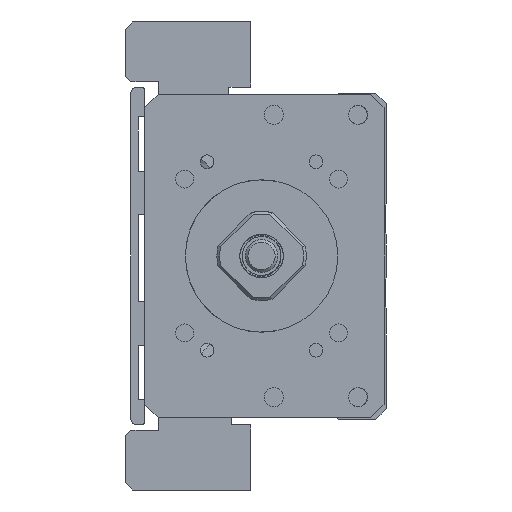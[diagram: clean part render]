
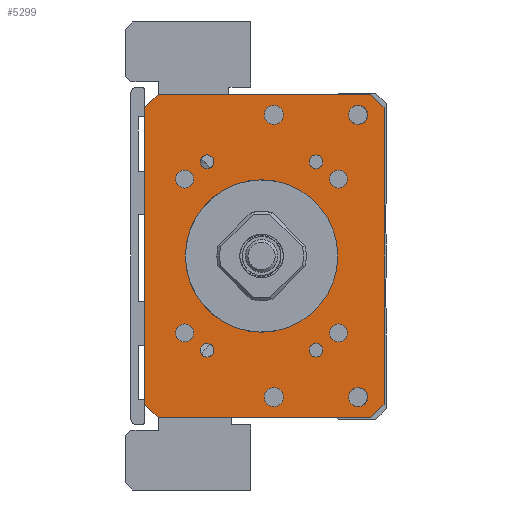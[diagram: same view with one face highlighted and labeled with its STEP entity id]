
A CAD part, left-side view. The second image highlights one B-rep face of the part: STEP entity #5299.
In plain terms, the highlighted planar face has unit normal (-1, 0, 0).
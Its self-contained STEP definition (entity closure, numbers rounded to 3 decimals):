
#5299=ADVANCED_FACE('',(#8167,#8168,#8169,#8170,#8171,#8172,#8173,#8174,
#8175,#8176,#8177,#8178,#8179,#8180),#5886,.F.);
#5886=PLANE('',#16061);
#6630=LINE('',#21746,#7591);
#6632=LINE('',#21770,#7593);
#6633=LINE('',#21772,#7594);
#6634=LINE('',#21774,#7595);
#6635=LINE('',#21776,#7596);
#6636=LINE('',#21778,#7597);
#6637=LINE('',#21780,#7598);
#6638=LINE('',#21782,#7599);
#7591=VECTOR('',#18279,1.);
#7593=VECTOR('',#18303,1.);
#7594=VECTOR('',#18304,1.);
#7595=VECTOR('',#18305,1.);
#7596=VECTOR('',#18306,1.);
#7597=VECTOR('',#18307,1.);
#7598=VECTOR('',#18308,1.);
#7599=VECTOR('',#18309,1.);
#8167=FACE_BOUND('',#8923,.T.);
#8168=FACE_BOUND('',#8924,.T.);
#8169=FACE_BOUND('',#8925,.T.);
#8170=FACE_BOUND('',#8926,.T.);
#8171=FACE_BOUND('',#8927,.T.);
#8172=FACE_BOUND('',#8928,.T.);
#8173=FACE_BOUND('',#8929,.T.);
#8174=FACE_BOUND('',#8930,.T.);
#8175=FACE_BOUND('',#8931,.T.);
#8176=FACE_BOUND('',#8932,.T.);
#8177=FACE_BOUND('',#8933,.T.);
#8178=FACE_BOUND('',#8934,.T.);
#8179=FACE_BOUND('',#8935,.T.);
#8180=FACE_BOUND('',#8936,.T.);
#8923=EDGE_LOOP('',(#11005));
#8924=EDGE_LOOP('',(#11006));
#8925=EDGE_LOOP('',(#11007));
#8926=EDGE_LOOP('',(#11008));
#8927=EDGE_LOOP('',(#11009));
#8928=EDGE_LOOP('',(#11010));
#8929=EDGE_LOOP('',(#11011));
#8930=EDGE_LOOP('',(#11012));
#8931=EDGE_LOOP('',(#11013));
#8932=EDGE_LOOP('',(#11014,#11015,#11016,#11017,#11018,#11019,#11020,#11021));
#8933=EDGE_LOOP('',(#11022));
#8934=EDGE_LOOP('',(#11023));
#8935=EDGE_LOOP('',(#11024));
#8936=EDGE_LOOP('',(#11025));
#11005=ORIENTED_EDGE('',*,*,#14385,.F.);
#11006=ORIENTED_EDGE('',*,*,#14386,.F.);
#11007=ORIENTED_EDGE('',*,*,#14387,.F.);
#11008=ORIENTED_EDGE('',*,*,#14388,.F.);
#11009=ORIENTED_EDGE('',*,*,#14389,.F.);
#11010=ORIENTED_EDGE('',*,*,#14390,.T.);
#11011=ORIENTED_EDGE('',*,*,#14391,.F.);
#11012=ORIENTED_EDGE('',*,*,#14392,.F.);
#11013=ORIENTED_EDGE('',*,*,#14393,.F.);
#11014=ORIENTED_EDGE('',*,*,#14382,.T.);
#11015=ORIENTED_EDGE('',*,*,#14394,.T.);
#11016=ORIENTED_EDGE('',*,*,#14395,.F.);
#11017=ORIENTED_EDGE('',*,*,#14396,.T.);
#11018=ORIENTED_EDGE('',*,*,#14397,.F.);
#11019=ORIENTED_EDGE('',*,*,#14398,.T.);
#11020=ORIENTED_EDGE('',*,*,#14399,.T.);
#11021=ORIENTED_EDGE('',*,*,#14400,.T.);
#11022=ORIENTED_EDGE('',*,*,#14401,.F.);
#11023=ORIENTED_EDGE('',*,*,#14402,.F.);
#11024=ORIENTED_EDGE('',*,*,#14403,.F.);
#11025=ORIENTED_EDGE('',*,*,#14362,.F.);
#13039=VERTEX_POINT('',#21669);
#13059=VERTEX_POINT('',#21745);
#13060=VERTEX_POINT('',#21747);
#13062=VERTEX_POINT('',#21753);
#13063=VERTEX_POINT('',#21755);
#13064=VERTEX_POINT('',#21757);
#13065=VERTEX_POINT('',#21759);
#13066=VERTEX_POINT('',#21761);
#13067=VERTEX_POINT('',#21763);
#13068=VERTEX_POINT('',#21765);
#13069=VERTEX_POINT('',#21767);
#13070=VERTEX_POINT('',#21769);
#13071=VERTEX_POINT('',#21771);
#13072=VERTEX_POINT('',#21773);
#13073=VERTEX_POINT('',#21775);
#13074=VERTEX_POINT('',#21777);
#13075=VERTEX_POINT('',#21779);
#13076=VERTEX_POINT('',#21781);
#13077=VERTEX_POINT('',#21784);
#13078=VERTEX_POINT('',#21786);
#13079=VERTEX_POINT('',#21788);
#14362=EDGE_CURVE('',#13039,#13039,#15269,.T.);
#14382=EDGE_CURVE('',#13060,#13059,#6630,.T.);
#14385=EDGE_CURVE('',#13062,#13062,#15278,.T.);
#14386=EDGE_CURVE('',#13063,#13063,#15279,.T.);
#14387=EDGE_CURVE('',#13064,#13064,#15280,.T.);
#14388=EDGE_CURVE('',#13065,#13065,#15281,.T.);
#14389=EDGE_CURVE('',#13066,#13066,#15282,.T.);
#14390=EDGE_CURVE('',#13067,#13067,#15283,.T.);
#14391=EDGE_CURVE('',#13068,#13068,#15284,.T.);
#14392=EDGE_CURVE('',#13069,#13069,#15285,.T.);
#14393=EDGE_CURVE('',#13070,#13070,#15286,.T.);
#14394=EDGE_CURVE('',#13059,#13071,#6632,.T.);
#14395=EDGE_CURVE('',#13072,#13071,#6633,.T.);
#14396=EDGE_CURVE('',#13072,#13073,#6634,.T.);
#14397=EDGE_CURVE('',#13074,#13073,#6635,.T.);
#14398=EDGE_CURVE('',#13074,#13075,#6636,.T.);
#14399=EDGE_CURVE('',#13075,#13076,#6637,.T.);
#14400=EDGE_CURVE('',#13076,#13060,#6638,.T.);
#14401=EDGE_CURVE('',#13077,#13077,#15287,.T.);
#14402=EDGE_CURVE('',#13078,#13078,#15288,.T.);
#14403=EDGE_CURVE('',#13079,#13079,#15289,.T.);
#15269=CIRCLE('',#16038,14.);
#15278=CIRCLE('',#16049,1.65);
#15279=CIRCLE('',#16050,1.65);
#15280=CIRCLE('',#16051,1.65);
#15281=CIRCLE('',#16052,1.65);
#15282=CIRCLE('',#16053,1.25);
#15283=CIRCLE('',#16054,1.75);
#15284=CIRCLE('',#16055,1.25);
#15285=CIRCLE('',#16056,1.75);
#15286=CIRCLE('',#16057,1.25);
#15287=CIRCLE('',#16058,1.75);
#15288=CIRCLE('',#16059,1.75);
#15289=CIRCLE('',#16060,1.25);
#16038=AXIS2_PLACEMENT_3D('',#21668,#18253,#18254);
#16049=AXIS2_PLACEMENT_3D('',#21752,#18285,#18286);
#16050=AXIS2_PLACEMENT_3D('',#21754,#18287,#18288);
#16051=AXIS2_PLACEMENT_3D('',#21756,#18289,#18290);
#16052=AXIS2_PLACEMENT_3D('',#21758,#18291,#18292);
#16053=AXIS2_PLACEMENT_3D('',#21760,#18293,#18294);
#16054=AXIS2_PLACEMENT_3D('',#21762,#18295,#18296);
#16055=AXIS2_PLACEMENT_3D('',#21764,#18297,#18298);
#16056=AXIS2_PLACEMENT_3D('',#21766,#18299,#18300);
#16057=AXIS2_PLACEMENT_3D('',#21768,#18301,#18302);
#16058=AXIS2_PLACEMENT_3D('',#21783,#18310,#18311);
#16059=AXIS2_PLACEMENT_3D('',#21785,#18312,#18313);
#16060=AXIS2_PLACEMENT_3D('',#21787,#18314,#18315);
#16061=AXIS2_PLACEMENT_3D('',#21789,#18316,#18317);
#18253=DIRECTION('',(-1.,0.,0.));
#18254=DIRECTION('',(0.,1.,0.));
#18279=DIRECTION('',(0.,0.,-1.));
#18285=DIRECTION('',(-1.,0.,0.));
#18286=DIRECTION('',(0.,0.,1.));
#18287=DIRECTION('',(-1.,0.,0.));
#18288=DIRECTION('',(0.,0.,1.));
#18289=DIRECTION('',(-1.,0.,0.));
#18290=DIRECTION('',(0.,0.,1.));
#18291=DIRECTION('',(-1.,0.,0.));
#18292=DIRECTION('',(0.,0.,1.));
#18293=DIRECTION('',(-1.,0.,0.));
#18294=DIRECTION('',(0.,1.,0.));
#18295=DIRECTION('',(1.,0.,0.));
#18296=DIRECTION('',(0.,0.,1.));
#18297=DIRECTION('',(-1.,0.,0.));
#18298=DIRECTION('',(0.,1.,0.));
#18299=DIRECTION('',(-1.,0.,0.));
#18300=DIRECTION('',(0.,0.,1.));
#18301=DIRECTION('',(-1.,0.,0.));
#18302=DIRECTION('',(0.,1.,0.));
#18303=DIRECTION('',(0.,-0.707,-0.707));
#18304=DIRECTION('',(0.,1.,0.));
#18305=DIRECTION('',(0.,-0.707,0.707));
#18306=DIRECTION('',(0.,0.,-1.));
#18307=DIRECTION('',(0.,0.707,0.707));
#18308=DIRECTION('',(0.,1.,0.));
#18309=DIRECTION('',(0.,0.707,-0.707));
#18310=DIRECTION('',(-1.,0.,0.));
#18311=DIRECTION('',(0.,0.,1.));
#18312=DIRECTION('',(-1.,0.,0.));
#18313=DIRECTION('',(0.,0.,1.));
#18314=DIRECTION('',(-1.,0.,0.));
#18315=DIRECTION('',(0.,1.,0.));
#18316=DIRECTION('',(1.,0.,0.));
#18317=DIRECTION('',(0.,1.,0.));
#21668=CARTESIAN_POINT('',(-211.,0.,-500.));
#21669=CARTESIAN_POINT('',(-211.,14.,-500.));
#21745=CARTESIAN_POINT('',(-211.,21.499,-527.25));
#21746=CARTESIAN_POINT('',(-211.,21.499,-470.25));
#21747=CARTESIAN_POINT('',(-211.,21.499,-472.75));
#21752=CARTESIAN_POINT('',(-211.,14.142,-485.858));
#21753=CARTESIAN_POINT('',(-211.,14.142,-484.208));
#21754=CARTESIAN_POINT('',(-211.,-14.142,-485.858));
#21755=CARTESIAN_POINT('',(-211.,-14.142,-484.208));
#21756=CARTESIAN_POINT('',(-211.,14.142,-514.142));
#21757=CARTESIAN_POINT('',(-211.,14.142,-512.492));
#21758=CARTESIAN_POINT('',(-211.,-14.142,-514.142));
#21759=CARTESIAN_POINT('',(-211.,-14.142,-512.492));
#21760=CARTESIAN_POINT('',(-211.,-10.,-517.321));
#21761=CARTESIAN_POINT('',(-211.,-8.75,-517.321));
#21762=CARTESIAN_POINT('',(-211.,-2.25,-525.936));
#21763=CARTESIAN_POINT('',(-211.,-2.25,-524.186));
#21764=CARTESIAN_POINT('',(-211.,10.,-482.679));
#21765=CARTESIAN_POINT('',(-211.,11.25,-482.679));
#21766=CARTESIAN_POINT('',(-211.,-2.25,-474.064));
#21767=CARTESIAN_POINT('',(-211.,-2.25,-472.314));
#21768=CARTESIAN_POINT('',(-211.,10.,-517.321));
#21769=CARTESIAN_POINT('',(-211.,11.25,-517.321));
#21770=CARTESIAN_POINT('',(-211.,18.999,-529.75));
#21771=CARTESIAN_POINT('',(-211.,18.999,-529.75));
#21772=CARTESIAN_POINT('',(-211.,-22.501,-529.75));
#21773=CARTESIAN_POINT('',(-211.,-20.001,-529.75));
#21774=CARTESIAN_POINT('',(-211.,-22.501,-527.25));
#21775=CARTESIAN_POINT('',(-211.,-22.501,-527.25));
#21776=CARTESIAN_POINT('',(-211.,-22.501,-470.25));
#21777=CARTESIAN_POINT('',(-211.,-22.501,-472.75));
#21778=CARTESIAN_POINT('',(-211.,-22.501,-472.75));
#21779=CARTESIAN_POINT('',(-211.,-20.001,-470.25));
#21780=CARTESIAN_POINT('',(-211.,-22.501,-470.25));
#21781=CARTESIAN_POINT('',(-211.,18.999,-470.25));
#21782=CARTESIAN_POINT('',(-211.,18.999,-470.25));
#21783=CARTESIAN_POINT('',(-211.,-17.75,-474.064));
#21784=CARTESIAN_POINT('',(-211.,-17.75,-472.314));
#21785=CARTESIAN_POINT('',(-211.,-17.75,-525.936));
#21786=CARTESIAN_POINT('',(-211.,-17.75,-524.186));
#21787=CARTESIAN_POINT('',(-211.,-10.,-482.679));
#21788=CARTESIAN_POINT('',(-211.,-8.75,-482.679));
#21789=CARTESIAN_POINT('',(-211.,-22.501,-470.25));
